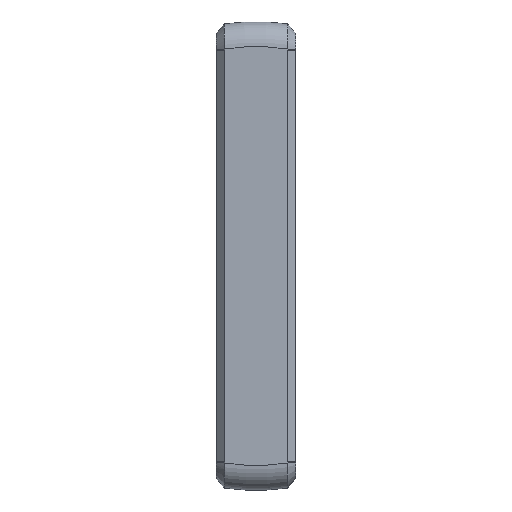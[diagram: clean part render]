
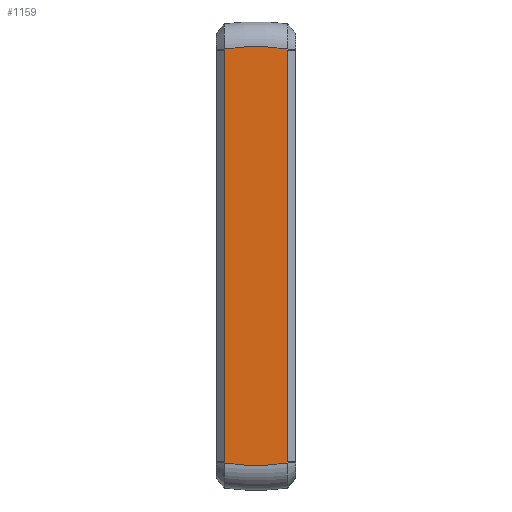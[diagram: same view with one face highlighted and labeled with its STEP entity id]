
A CAD part, front view. The second image highlights one B-rep face of the part: STEP entity #1159.
In plain terms, the highlighted planar face has unit normal (0, -1, 0).
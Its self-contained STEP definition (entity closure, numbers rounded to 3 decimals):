
#132=LINE('',#2275,#208);
#141=LINE('',#2480,#217);
#208=VECTOR('',#1494,10.);
#217=VECTOR('',#1513,10.);
#243=PLANE('',#1277);
#309=FACE_OUTER_BOUND('',#377,.T.);
#377=EDGE_LOOP('',(#1053,#1054,#1055,#1056,#1057,#1058,#1059,#1060));
#414=CIRCLE('',#1262,12.642);
#418=CIRCLE('',#1271,12.642);
#453=B_SPLINE_CURVE_WITH_KNOTS('',3,(#2293,#2294,#2295,#2296),
 .UNSPECIFIED.,.F.,.F.,(4,4),(-0.224,-0.216),
 .UNSPECIFIED.);
#458=B_SPLINE_CURVE_WITH_KNOTS('',3,(#2472,#2473,#2474,#2475),
 .UNSPECIFIED.,.F.,.F.,(4,4),(0.216,0.224),
 .UNSPECIFIED.);
#459=B_SPLINE_CURVE_WITH_KNOTS('',3,(#2498,#2499,#2500,#2501),
 .UNSPECIFIED.,.F.,.F.,(4,4),(-0.224,-0.216),
 .UNSPECIFIED.);
#460=B_SPLINE_CURVE_WITH_KNOTS('',3,(#2518,#2519,#2520,#2521),
 .UNSPECIFIED.,.F.,.F.,(4,4),(0.216,0.224),
 .UNSPECIFIED.);
#549=VERTEX_POINT('',#2174);
#554=VERTEX_POINT('',#2257);
#555=VERTEX_POINT('',#2272);
#556=VERTEX_POINT('',#2274);
#557=VERTEX_POINT('',#2349);
#562=VERTEX_POINT('',#2440);
#563=VERTEX_POINT('',#2477);
#564=VERTEX_POINT('',#2479);
#707=EDGE_CURVE('',#555,#556,#132,.T.);
#709=EDGE_CURVE('',#556,#554,#453,.T.);
#721=EDGE_CURVE('',#557,#555,#458,.T.);
#723=EDGE_CURVE('',#563,#564,#141,.T.);
#725=EDGE_CURVE('',#564,#562,#459,.T.);
#726=EDGE_CURVE('',#549,#563,#460,.T.);
#728=EDGE_CURVE('',#562,#557,#414,.T.);
#732=EDGE_CURVE('',#554,#549,#418,.T.);
#1053=ORIENTED_EDGE('',*,*,#721,.F.);
#1054=ORIENTED_EDGE('',*,*,#728,.F.);
#1055=ORIENTED_EDGE('',*,*,#725,.F.);
#1056=ORIENTED_EDGE('',*,*,#723,.F.);
#1057=ORIENTED_EDGE('',*,*,#726,.F.);
#1058=ORIENTED_EDGE('',*,*,#732,.F.);
#1059=ORIENTED_EDGE('',*,*,#709,.F.);
#1060=ORIENTED_EDGE('',*,*,#707,.F.);
#1159=ADVANCED_FACE('',(#309),#243,.T.);
#1262=AXIS2_PLACEMENT_3D('',#2525,#1521,#1522);
#1271=AXIS2_PLACEMENT_3D('',#2534,#1539,#1540);
#1277=AXIS2_PLACEMENT_3D('',#2540,#1551,#1552);
#1494=DIRECTION('',(0.,0.,1.));
#1513=DIRECTION('',(0.,0.,-1.));
#1521=DIRECTION('center_axis',(0.,1.,0.));
#1522=DIRECTION('ref_axis',(1.,0.,0.));
#1539=DIRECTION('center_axis',(0.,1.,0.));
#1540=DIRECTION('ref_axis',(1.,0.,0.));
#1551=DIRECTION('center_axis',(0.,-1.,0.));
#1552=DIRECTION('ref_axis',(0.,0.,-1.));
#2174=CARTESIAN_POINT('',(1.9,-8.9,12.499));
#2257=CARTESIAN_POINT('',(-1.9,-8.9,12.499));
#2272=CARTESIAN_POINT('',(-1.9,-8.9,-12.412));
#2274=CARTESIAN_POINT('',(-1.9,-8.9,12.412));
#2275=CARTESIAN_POINT('',(-1.9,-8.9,3.821));
#2293=CARTESIAN_POINT('Ctrl Pts',(-1.9,-8.9,12.412));
#2294=CARTESIAN_POINT('Ctrl Pts',(-1.9,-8.9,12.44));
#2295=CARTESIAN_POINT('Ctrl Pts',(-1.9,-8.9,12.469));
#2296=CARTESIAN_POINT('Ctrl Pts',(-1.9,-8.9,12.499));
#2349=CARTESIAN_POINT('',(-1.9,-8.9,-12.499));
#2440=CARTESIAN_POINT('',(1.9,-8.9,-12.499));
#2472=CARTESIAN_POINT('Ctrl Pts',(-1.9,-8.9,-12.499));
#2473=CARTESIAN_POINT('Ctrl Pts',(-1.9,-8.9,-12.469));
#2474=CARTESIAN_POINT('Ctrl Pts',(-1.9,-8.9,-12.44));
#2475=CARTESIAN_POINT('Ctrl Pts',(-1.9,-8.9,-12.412));
#2477=CARTESIAN_POINT('',(1.9,-8.9,12.412));
#2479=CARTESIAN_POINT('',(1.9,-8.9,-12.412));
#2480=CARTESIAN_POINT('',(1.9,-8.9,8.821));
#2498=CARTESIAN_POINT('Ctrl Pts',(1.9,-8.9,-12.412));
#2499=CARTESIAN_POINT('Ctrl Pts',(1.9,-8.9,-12.44));
#2500=CARTESIAN_POINT('Ctrl Pts',(1.9,-8.9,-12.469));
#2501=CARTESIAN_POINT('Ctrl Pts',(1.9,-8.9,-12.499));
#2518=CARTESIAN_POINT('Ctrl Pts',(1.9,-8.9,12.499));
#2519=CARTESIAN_POINT('Ctrl Pts',(1.9,-8.9,12.469));
#2520=CARTESIAN_POINT('Ctrl Pts',(1.9,-8.9,12.44));
#2521=CARTESIAN_POINT('Ctrl Pts',(1.9,-8.9,12.412));
#2525=CARTESIAN_POINT('Origin',(0.,-8.9,0.));
#2534=CARTESIAN_POINT('Origin',(0.,-8.9,0.));
#2540=CARTESIAN_POINT('Origin',(0.,-8.9,12.642));
